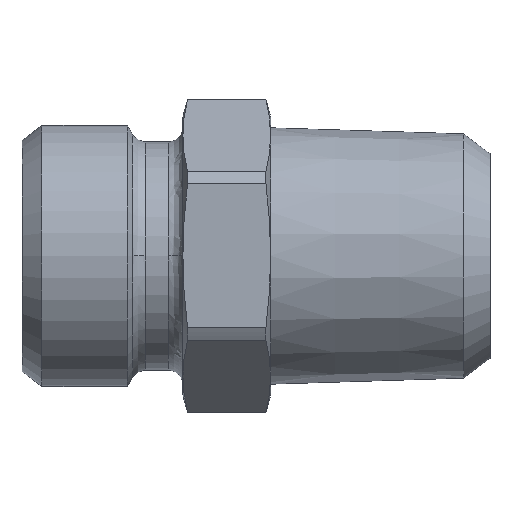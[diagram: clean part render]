
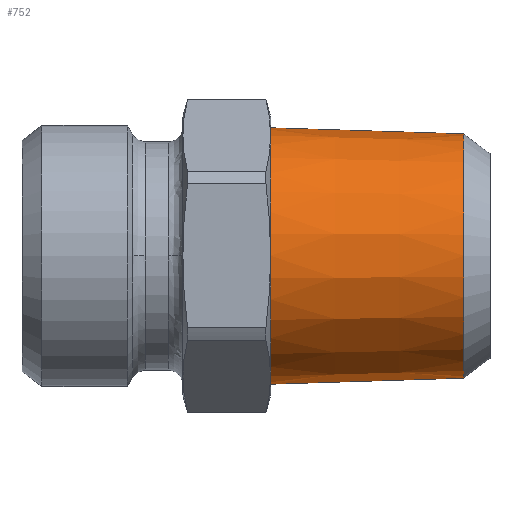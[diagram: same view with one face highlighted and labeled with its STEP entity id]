
A CAD part, top view. The second image highlights one B-rep face of the part: STEP entity #752.
In plain terms, the highlighted conical face has half-angle 1.79 degrees and reference radius 8.558 mm.
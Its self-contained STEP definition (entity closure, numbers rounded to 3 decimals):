
#711=CARTESIAN_POINT('',(0.,0.,-9.603));
#712=DIRECTION('',(0.,0.,1.0));
#713=DIRECTION('',(0.0,-1.0,0.0));
#714=AXIS2_PLACEMENT_3D('',#711,#712,#713);
#715=CONICAL_SURFACE('',#714,8.558,1.79);
#716=CARTESIAN_POINT('',(0.,-8.351,-16.207));
#717=VERTEX_POINT('',#716);
#718=CARTESIAN_POINT('',(0.,-8.764,-3.0));
#719=VERTEX_POINT('',#718);
#720=CARTESIAN_POINT('',(0.,-8.351,-16.207));
#721=DIRECTION('',(0.,-0.031,1.));
#722=VECTOR('',#721,13.213);
#723=LINE('',#720,#722);
#724=EDGE_CURVE('',#717,#719,#723,.T.);
#725=ORIENTED_EDGE('',*,*,#724,.F.);
#726=CARTESIAN_POINT('',(0.,8.351,-16.207));
#727=VERTEX_POINT('',#726);
#728=CARTESIAN_POINT('',(0.,0.,-16.207));
#729=DIRECTION('',(0.0,0.0,1.0));
#730=DIRECTION('',(0.0,-1.0,0.0));
#731=AXIS2_PLACEMENT_3D('',#728,#729,#730);
#732=CIRCLE('',#731,8.351);
#733=EDGE_CURVE('',#717,#727,#732,.T.);
#734=ORIENTED_EDGE('',*,*,#733,.T.);
#735=CARTESIAN_POINT('',(0.,8.764,-3.0));
#736=VERTEX_POINT('',#735);
#737=CARTESIAN_POINT('',(0.,8.764,-3.0));
#738=DIRECTION('',(0.,-0.031,-1.));
#739=VECTOR('',#738,13.213);
#740=LINE('',#737,#739);
#741=EDGE_CURVE('',#736,#727,#740,.T.);
#742=ORIENTED_EDGE('',*,*,#741,.F.);
#743=CARTESIAN_POINT('',(0.,0.,-3.0));
#744=DIRECTION('',(0.0,0.0,1.0));
#745=DIRECTION('',(0.0,-1.0,0.0));
#746=AXIS2_PLACEMENT_3D('',#743,#744,#745);
#747=CIRCLE('',#746,8.764);
#748=EDGE_CURVE('',#719,#736,#747,.T.);
#749=ORIENTED_EDGE('',*,*,#748,.F.);
#750=EDGE_LOOP('',(#725,#734,#742,#749));
#751=FACE_OUTER_BOUND('',#750,.T.);
#752=ADVANCED_FACE('',(#751),#715,.T.);
